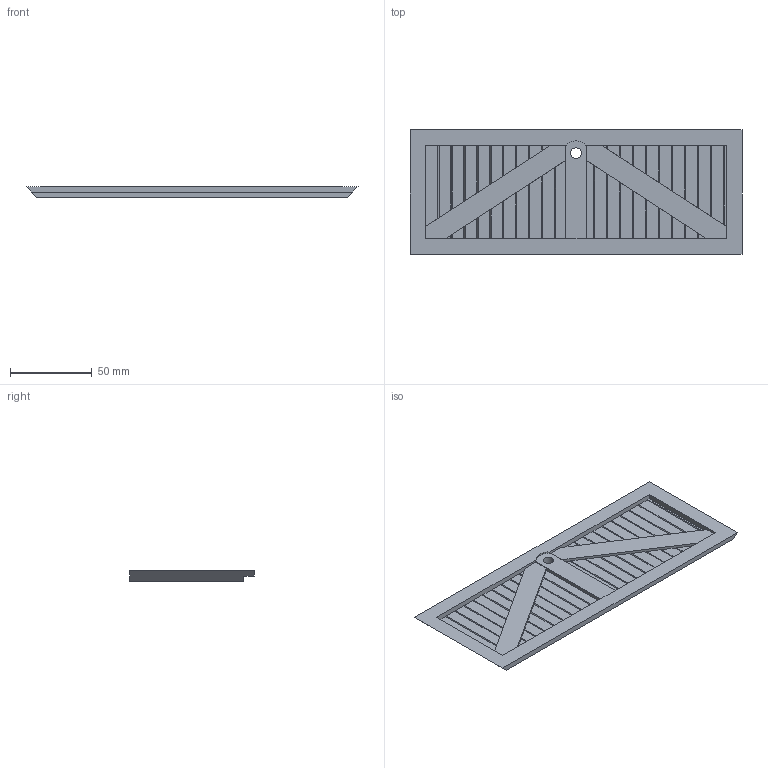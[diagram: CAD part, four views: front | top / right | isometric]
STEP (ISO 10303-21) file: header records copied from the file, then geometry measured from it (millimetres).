
FILE_DESCRIPTION (( 'STEP AP203' ), '1' );
FILE_NAME ('Box Front.STEP', '2018-02-28T19:16:51', ( '' ), ( '' ), 'SwSTEP 2.0', 'SolidWorks 2015', '' );
FILE_SCHEMA (( 'CONFIG_CONTROL_DESIGN' ));
Length unit declared in the file: inch
Products named in the file (1): Box Front
Bounding box: 203.2 x 76.2 x 6.35 mm (x, y, z)
Volume: 63125.1 mm3; surface area: 36790.6 mm2
Topology: 1 solids, 1 shells, 140 faces, 411 edges, 274 vertices
Faces by surface type: plane 137, cylinder 3
Entity records: 4644 total; most frequent: CARTESIAN_POINT 826, ORIENTED_EDGE 822, DIRECTION 699, EDGE_CURVE 411, LINE 405, VECTOR 405, VERTEX_POINT 274, AXIS2_PLACEMENT_3D 147
